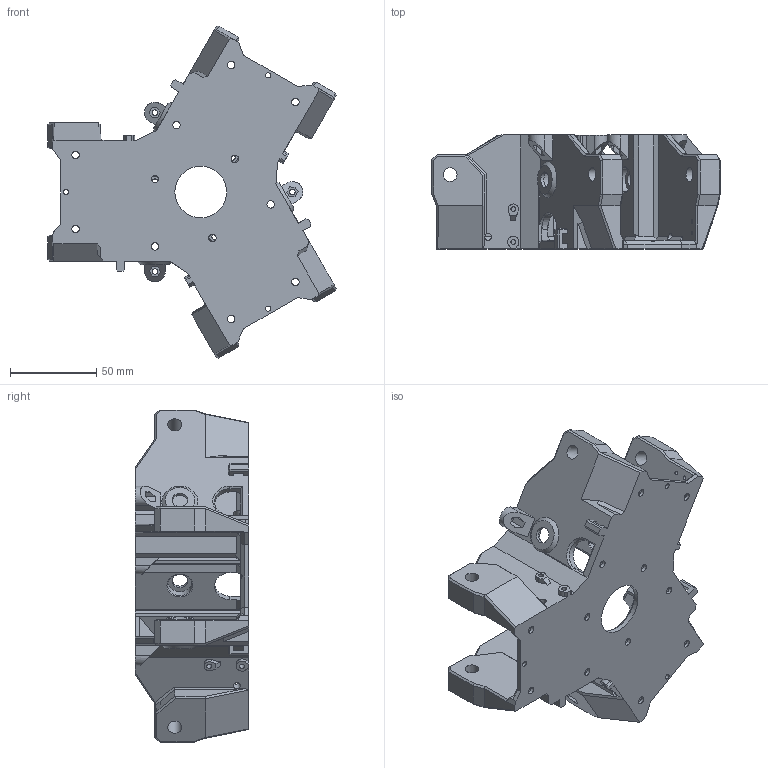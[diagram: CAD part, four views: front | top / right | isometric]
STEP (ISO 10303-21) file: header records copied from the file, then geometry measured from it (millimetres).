
FILE_DESCRIPTION(/* description */ (''),/* implementation_level */ '2;1');
FILE_NAME(/* name */ 'D:\3D печать\Мои проекты\3D Принтеры\Archy MK 2\STEP\MK3\редуктор V3.1.stp',/* time_stamp */ '2020-01-15T14:06:18+06:00',/* author */ ('Пользователь'),/* organization */ (''),/* preprocessor_version */ 'ST-DEVELOPER v16.5',/* originating_system */ 'Autodesk Inventor 2017',/* authorisation */ '');
FILE_SCHEMA (('AUTOMOTIVE_DESIGN { 1 0 10303 214 3 1 1 }'));
Length unit declared in the file: millimetre
Products named in the file (1): редуктор V3.2
Bounding box: 166.89 x 66 x 192.29 mm (x, y, z)
Volume: 292961.4 mm3; surface area: 101745.5 mm2
Topology: 1 solids, 1 shells, 747 faces, 1996 edges, 1264 vertices
Faces by surface type: plane 606, cylinder 73, bspline 49, cone 19
Full cylindrical faces by diameter (mm): 2 x6, 2.8 x6, 3 x3, 3.2 x6, 4 x3, 4.3 x12, 8.05 x6, 9 x6, 14.1 x6, 30 x1
Entity records: 24024 total; most frequent: CARTESIAN_POINT 5784, ORIENTED_EDGE 3828, DIRECTION 3437, EDGE_CURVE 1914, LINE 1621, VECTOR 1621, VERTEX_POINT 1249, EDGE_LOOP 913
